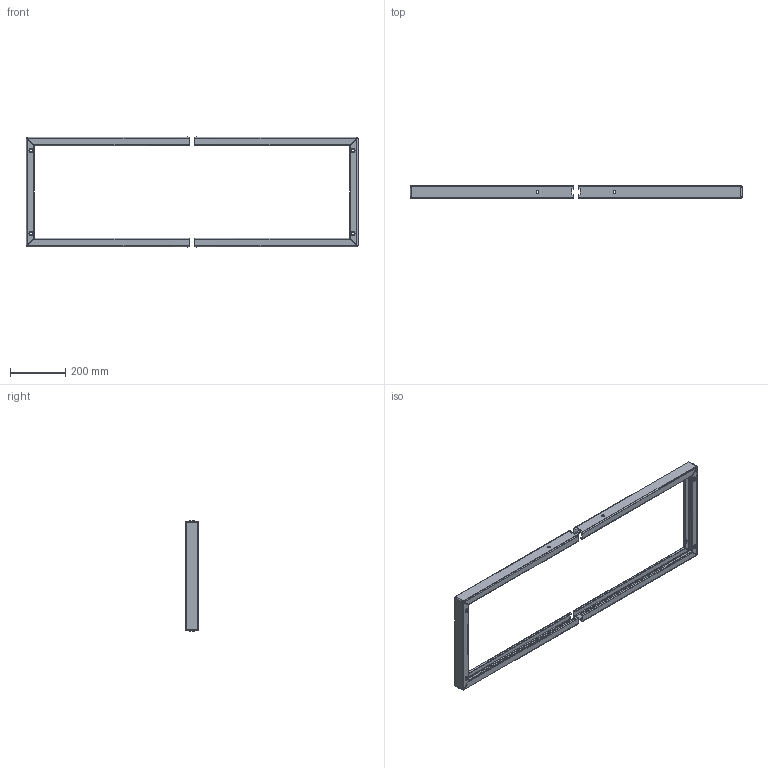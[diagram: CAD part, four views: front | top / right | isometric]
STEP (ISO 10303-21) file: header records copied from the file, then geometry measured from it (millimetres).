
FILE_DESCRIPTION((''),'2;1');
FILE_NAME('SB108895_3D_COLOUR','2013-08-12T',('SESA214371'),('Schneider-Electric'),'PRO/ENGINEER BY PARAMETRIC TECHNOLOGY CORPORATION, 2011410','PRO/ENGINEER BY PARAMETRIC TECHNOLOGY CORPORATION, 2011410','');
FILE_SCHEMA(('CONFIG_CONTROL_DESIGN'));
Length unit declared in the file: millimetre
Products named in the file (1): SB108895_3D_COLOUR
Bounding box: 1200 x 50 x 399 mm (x, y, z)
Volume: 679365.3 mm3; surface area: 694308.7 mm2
Topology: 2 solids, 2 shells, 428 faces, 1016 edges, 592 vertices
Faces by surface type: plane 236, cylinder 120, bspline 48, torus 24
Entity records: 15770 total; most frequent: CARTESIAN_POINT 6126, ORIENTED_EDGE 2032, DIRECTION 1912, EDGE_CURVE 1016, AXIS2_PLACEMENT_3D 644, VECTOR 624, LINE 624, VERTEX_POINT 592
